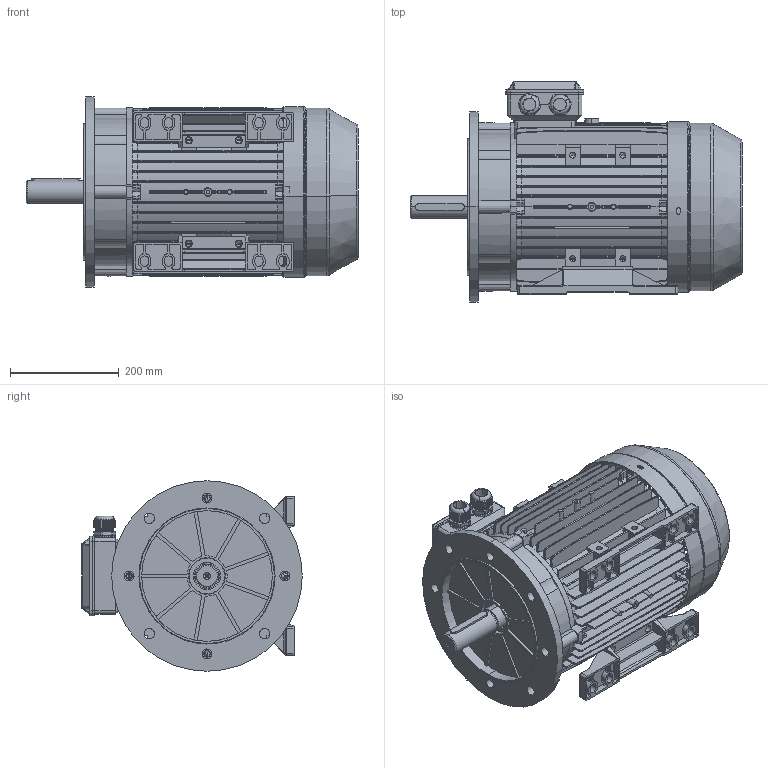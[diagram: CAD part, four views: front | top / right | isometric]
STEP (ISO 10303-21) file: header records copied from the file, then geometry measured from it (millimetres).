
FILE_DESCRIPTION (( 'STEP AP203' ), '1' );
FILE_NAME ('ME160 assembly B35.STEP', '2014-12-22T11:21:20', ( '' ), ( '' ), 'SwSTEP 2.0', 'SolidWorks 2010', '' );
FILE_SCHEMA (( 'CONFIG_CONTROL_DESIGN' ));
Length unit declared in the file: millimetre
Products named in the file (9): M160諉盄碟裔; M160傷裔B5; ME160 assembly B35; M160儂褲; M160瑞欶_136; M160-Shaft drive end; M160諉盄碟釱_2Holes; M32 cable gland; M160菁褐
Assembly tree (10 placements, depth 2):
  ME160 assembly B35
    M160諉盄碟釱_2Holes
    M160傷裔B5
    M160諉盄碟裔
    M32 cable gland  x2
    M160菁褐  x2
    M160儂褲
    M160瑞欶_136
    M160-Shaft drive end
Bounding box: 609.99 x 405 x 350 mm (x, y, z)
Volume: 4682293 mm3; surface area: 2110562.8 mm2
Topology: 12 solids, 12 shells, 6084 faces, 17205 edges, 11154 vertices
Faces by surface type: plane 2654, cylinder 2496, bspline 624, cone 212, torus 94, sphere 4
Entity records: 272304 total; most frequent: CARTESIAN_POINT 128468, ORIENTED_EDGE 31176, DIRECTION 28355, EDGE_CURVE 15588, VERTEX_POINT 10111, AXIS2_PLACEMENT_3D 9863, VECTOR 8629, LINE 8629
